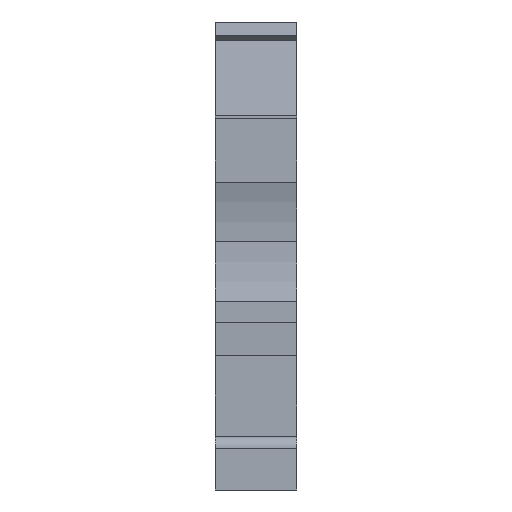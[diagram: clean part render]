
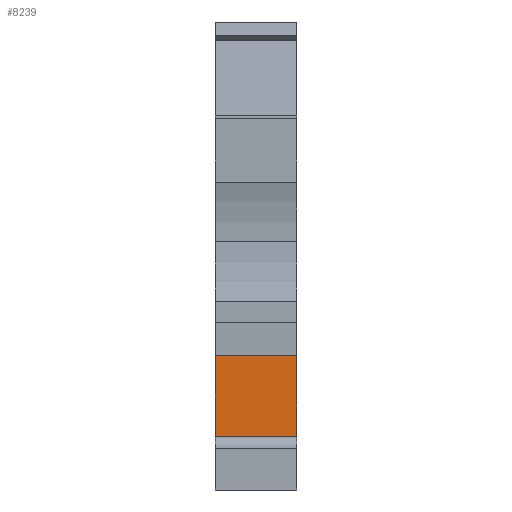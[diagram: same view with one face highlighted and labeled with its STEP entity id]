
A CAD part, front view. The second image highlights one B-rep face of the part: STEP entity #8239.
In plain terms, the highlighted planar face has unit normal (0, -1, 0).
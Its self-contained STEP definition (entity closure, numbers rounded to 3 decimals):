
#102=CARTESIAN_POINT('',(0.,3.6,4.));
#103=VERTEX_POINT('',#102);
#112=CARTESIAN_POINT('',(0.,3.6,10.1));
#113=VERTEX_POINT('',#112);
#114=CARTESIAN_POINT('',(0.,3.6,10.1));
#115=DIRECTION('',(0.,0.,-1.));
#116=VECTOR('',#115,6.1);
#117=LINE('',#114,#116);
#118=EDGE_CURVE('',#113,#103,#117,.T.);
#8174=CARTESIAN_POINT('',(1.6,3.6,4.));
#8175=VERTEX_POINT('',#8174);
#8184=CARTESIAN_POINT('',(0.,3.6,4.));
#8185=DIRECTION('',(1.,0.,0.));
#8186=VECTOR('',#8185,1.6);
#8187=LINE('',#8184,#8186);
#8188=EDGE_CURVE('',#103,#8175,#8187,.T.);
#8200=CARTESIAN_POINT('',(0.,3.6,10.1));
#8201=DIRECTION('',(0.,1.,0.));
#8202=DIRECTION('',(0.,0.,1.));
#8203=AXIS2_PLACEMENT_3D('',#8200,#8201,#8202);
#8204=PLANE('',#8203);
#8205=CARTESIAN_POINT('',(6.15,3.6,10.1));
#8206=VERTEX_POINT('',#8205);
#8207=CARTESIAN_POINT('',(6.15,3.6,1.5));
#8208=VERTEX_POINT('',#8207);
#8209=CARTESIAN_POINT('',(6.15,3.6,10.1));
#8210=DIRECTION('',(-0.,0.,-1.));
#8211=VECTOR('',#8210,8.6);
#8212=LINE('',#8209,#8211);
#8213=EDGE_CURVE('',#8206,#8208,#8212,.T.);
#8214=ORIENTED_EDGE('',*,*,#8213,.F.);
#8215=CARTESIAN_POINT('',(0.,3.6,10.1));
#8216=DIRECTION('',(1.,0.,0.));
#8217=VECTOR('',#8216,6.15);
#8218=LINE('',#8215,#8217);
#8219=EDGE_CURVE('',#113,#8206,#8218,.T.);
#8220=ORIENTED_EDGE('',*,*,#8219,.F.);
#8221=ORIENTED_EDGE('',*,*,#118,.T.);
#8222=ORIENTED_EDGE('',*,*,#8188,.T.);
#8223=CARTESIAN_POINT('',(1.6,3.6,1.5));
#8224=VERTEX_POINT('',#8223);
#8225=CARTESIAN_POINT('',(1.6,3.6,4.));
#8226=DIRECTION('',(-0.,0.,-1.));
#8227=VECTOR('',#8226,2.5);
#8228=LINE('',#8225,#8227);
#8229=EDGE_CURVE('',#8175,#8224,#8228,.T.);
#8230=ORIENTED_EDGE('',*,*,#8229,.T.);
#8231=CARTESIAN_POINT('',(1.6,3.6,1.5));
#8232=DIRECTION('',(1.,0.,0.));
#8233=VECTOR('',#8232,4.55);
#8234=LINE('',#8231,#8233);
#8235=EDGE_CURVE('',#8224,#8208,#8234,.T.);
#8236=ORIENTED_EDGE('',*,*,#8235,.T.);
#8237=EDGE_LOOP('',(#8214,#8220,#8221,#8222,#8230,#8236));
#8238=FACE_BOUND('',#8237,.T.);
#8239=ADVANCED_FACE('',(#8238),#8204,.F.);
